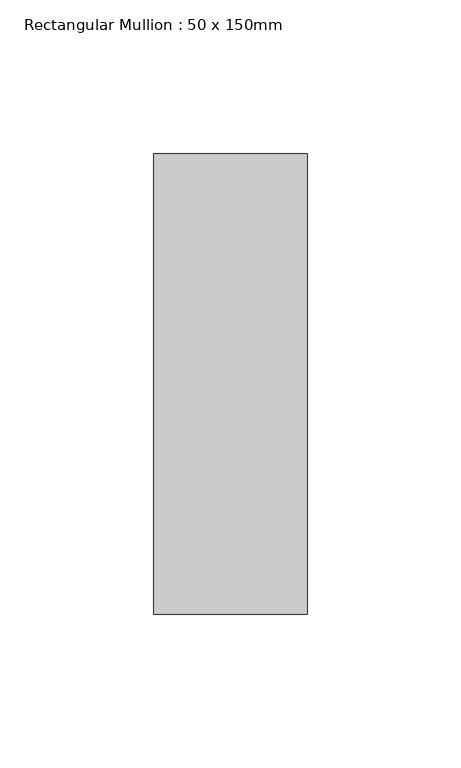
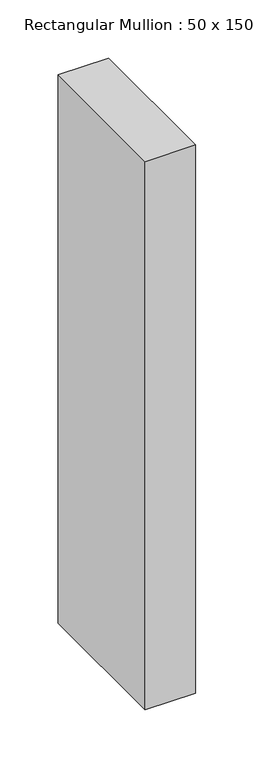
"""IFC4 building model written with IfcOpenShell, lengths in millimetres: member geometry, Rectangular Mullion : 50 x 150mm."""

from ifc_helpers import new_model, si_unit, frame, origin, place, context, project, spatial, polyline, outline, extrude, source, transform, mapped, element, save


def rectangular_mullion_50_x_150mm_3942d5f1(model_context):
    return source(origin(), model_context, "Body", "SweptSolid", [
        extrude(outline(polyline([(25.0, 75.0), (25.0, -75.0), (-25.0, -75.0), (-25.0, 75.0), (25.0, 75.0)])), frame((0.0, 0.0, -575.0000002), z_axis=(0.0, 0.0, 1.0), x_axis=(1.0, 0.0, 0.0)), (0.0, 0.0, 1.0), 575.0000002),
    ])


if __name__ == "__main__":
    model = new_model("IFC4")
    model_context = context("Model", 3, world=origin())
    ifc_project = project(units=[si_unit("LENGTHUNIT", "METRE", prefix="MILLI")], contexts=[model_context])
    site = spatial("IfcSite", under=ifc_project)
    building = spatial("IfcBuilding", under=site)
    placement = place(None, origin())
    rectangular_mullion_50_x_150mm_shape = rectangular_mullion_50_x_150mm_3942d5f1(model_context)
    element("IfcMember", 1, ObjectType="Rectangular Mullion : 50 x 150mm", at=placement, inside=building, context=model_context, shape_type="MappedRepresentation", body=[
        mapped(rectangular_mullion_50_x_150mm_shape, transform((0.0, 0.0, 0.0), x_axis=(1.0, 0.0, 0.0), y_axis=(0.0, 1.0, 0.0), z_axis=(0.0, 0.0, 1.0))),
    ])
    save(model, "model.ifc")
